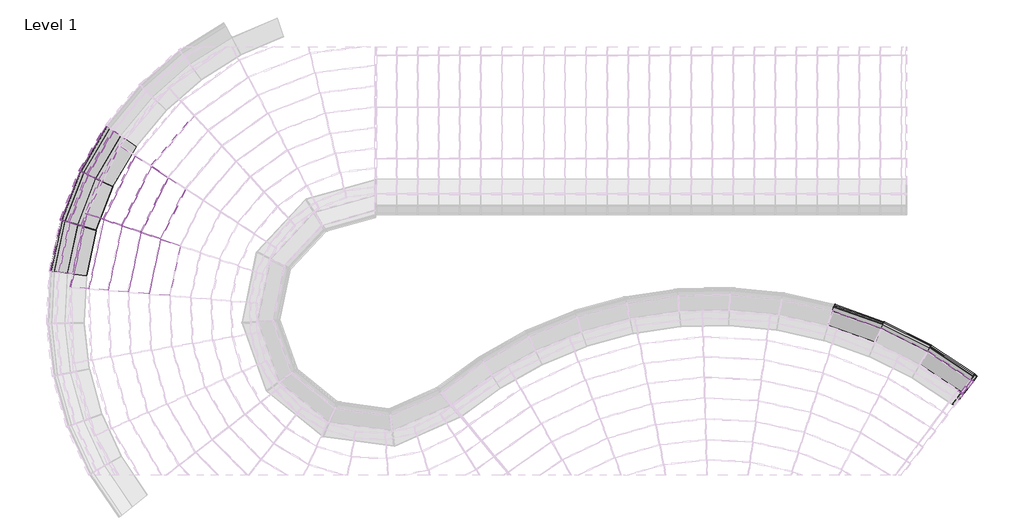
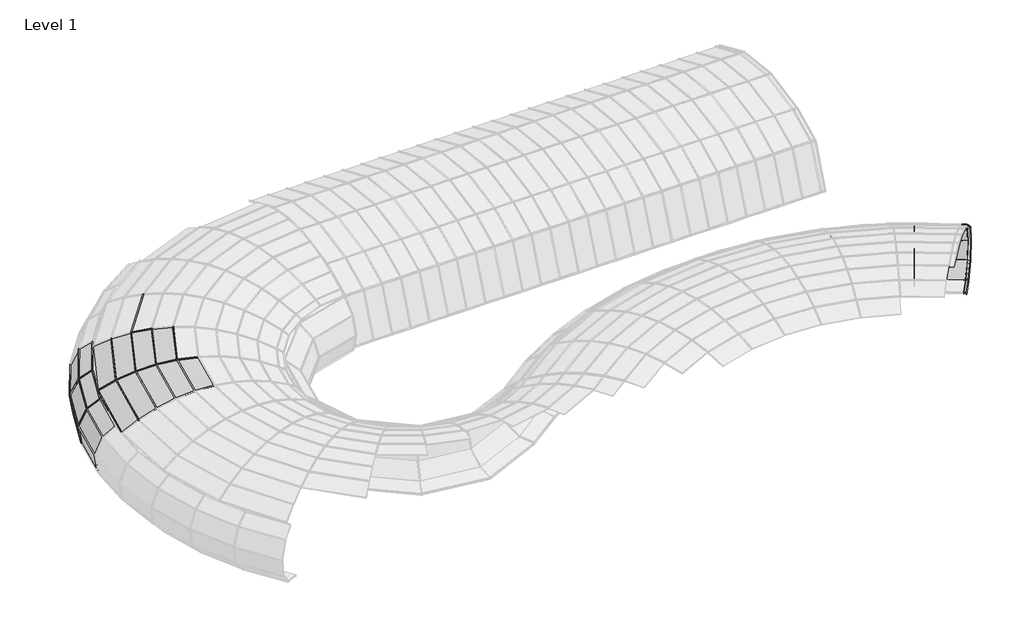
# One storey, part 13 of 23: 67 members, 33 plates.
"""IFC4 building model written with IfcOpenShell, lengths in millimetres."""

from ifc_helpers import new_model, si_unit, origin, place, context, project, spatial, transform, mapped, element, save
from components import member_9f5a8508, member_b171f0c8, member_040a25f9, member_07455e61, member_515abc7c, member_e80ec650, member_68ba998a, member_6834bcaf, member_d79d2994, member_c7dbaffb, member_6c4aaba8, member_0ea93e7c, member_01d9c279, member_12c77cbe, member_af15374c, member_9c203333, member_86c07ba8, member_0e8a41c0, member_f532ae18, member_ff5bcfe9, member_5080b2ef, member_d6b8231b, member_8c9da58c, member_391bee44, member_01ebdf2a, member_e0eebeff, member_95f517b8, member_0cd36c09, member_e4cc2466, member_03fc4885, member_b79de73f, member_10df8ec0, member_13f17b54, system_panel_glazed_dfe8d515, system_panel_glazed_f0cf6c0b, system_panel_glazed_2b57bb89, system_panel_glazed_39caee5c, system_panel_glazed_2fe36e08, system_panel_glazed_8ac96967, system_panel_glazed_5e26bc8e, system_panel_glazed_f7be4813, system_panel_glazed_5b1ce257, system_panel_glazed_7bf4cd1b, system_panel_glazed_a2a57e74, system_panel_glazed_56180ac8, system_panel_glazed_7dd4ad5a, system_panel_glazed_3ffe7a12, system_panel_glazed_af9ea4cd

model = new_model("IFC4")

# Units and contexts
model_context = context("Model", 3, world=origin())
ifc_project = project(units=[si_unit("LENGTHUNIT", "METRE", prefix="MILLI")], contexts=[model_context])

# Site, building, storey
site = spatial("IfcSite", under=ifc_project)
building = spatial("IfcBuilding", under=site)
storey = spatial("IfcBuildingStorey", under=building, Name="Level 1", Elevation=0.0)

# Members
placement = place(None, origin())
member_shape = member_9f5a8508(model_context)
element("IfcMember", 1, ObjectType="Rectangular Mullion : 1\" Square", at=placement, inside=storey, context=model_context, shape_type="MappedRepresentation", body=[
    mapped(member_shape, transform((7104.8271697, -3677.2258429, 2085.6089632), x_axis=(0.5145511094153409, 0.6881011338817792, -0.5116189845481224), y_axis=(0.30639001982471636, 0.40973057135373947, 0.8592124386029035), z_axis=(0.8008509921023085, -0.5988636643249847, 0.0))),
])
member_2_shape = member_b171f0c8(model_context)
element("IfcMember", 2, ObjectType="Rectangular Mullion : 1\" Square", at=placement, inside=storey, context=model_context, shape_type="MappedRepresentation", body=[
    mapped(member_2_shape, transform((6165.2913851, -2271.3085025, 1116.1918244), x_axis=(0.011808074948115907, 0.023756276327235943, -0.9996480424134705), y_axis=(0.44494289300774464, 0.8951659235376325, 0.026529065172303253), z_axis=(0.8954810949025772, -0.44509954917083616, 0.0))),
])
element("IfcMember", 3, ObjectType="Rectangular Mullion : 1\" Square", at=placement, inside=storey, context=model_context, shape_type="MappedRepresentation", body=[
    mapped(member_2_shape, transform((7440.7683843, -3110.151261, 1116.1918244), x_axis=(0.014599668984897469, 0.022150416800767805, -0.9996480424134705), y_axis=(0.5501336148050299, 0.8346551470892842, 0.02652906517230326), z_axis=(0.8349490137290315, -0.5503273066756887, 0.0))),
])
element("IfcMember", 4, ObjectType="Rectangular Mullion : 1\" Square", at=placement, inside=storey, context=model_context, shape_type="MappedRepresentation", body=[
    mapped(member_2_shape, transform((4797.5682661, -1593.1992054, 1116.1918244), x_axis=(0.008842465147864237, 0.025012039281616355, -0.9996480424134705), y_axis=(0.3331950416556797, 0.9424846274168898, 0.02652906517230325), z_axis=(0.9428164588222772, -0.3333123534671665, 0.0))),
])
member_3_shape = member_040a25f9(model_context)
element("IfcMember", 5, ObjectType="Rectangular Mullion : 1\" Square", at=placement, inside=storey, context=model_context, shape_type="MappedRepresentation", body=[
    mapped(member_3_shape, transform((7501.9908279, -3155.3837101, 1116.1918244), x_axis=(0.015953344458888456, 0.021115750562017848, -0.9996497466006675), y_axis=(0.6026032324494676, 0.7976020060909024, 0.02646477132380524), z_axis=(0.7978814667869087, -0.6028143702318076, 0.0))),
])
member_4_shape = member_07455e61(model_context)
element("IfcMember", 6, ObjectType="Rectangular Mullion : 1\" Square", at=placement, inside=storey, context=model_context, shape_type="MappedRepresentation", body=[
    mapped(member_4_shape, transform((4737.0034342, -1736.2291128, 526.7119632), x_axis=(-0.17219439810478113, -0.48707379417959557, -0.8562173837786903), y_axis=(0.2853878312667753, 0.8072558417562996, -0.5166157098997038), z_axis=(0.9428164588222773, -0.33331235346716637, 0.0))),
])
element("IfcMember", 7, ObjectType="Rectangular Mullion : 1\" Square", at=placement, inside=storey, context=model_context, shape_type="MappedRepresentation", body=[
    mapped(member_4_shape, transform((6087.8415671, -2405.9457149, 526.7119632), x_axis=(-0.2299454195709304, -0.46261960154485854, -0.8562173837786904), y_axis=(0.38110197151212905, 0.7667264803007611, -0.5166157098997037), z_axis=(0.8954810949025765, -0.44509954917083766, 0.0))),
])
element("IfcMember", 8, ObjectType="Rectangular Mullion : 1\" Square", at=placement, inside=storey, context=model_context, shape_type="MappedRepresentation", body=[
    mapped(member_4_shape, transform((7347.5749593, -3234.4116279, 526.7119632), x_axis=(-0.2843077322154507, -0.43134777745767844, -0.8562173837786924), y_axis=(0.4711998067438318, 0.7148978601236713, -0.5166157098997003), z_axis=(0.834949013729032, -0.5503273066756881, 0.0))),
])
member_5_shape = member_515abc7c(model_context)
element("IfcMember", 9, ObjectType="Rectangular Mullion : 1\" Square", at=placement, inside=storey, context=model_context, shape_type="MappedRepresentation", body=[
    mapped(member_5_shape, transform((7328.9928638, -3259.1882471, 1696.6281859), x_axis=(0.3088719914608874, 0.46861633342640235, -0.827645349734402), y_axis=(0.4554758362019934, 0.6910416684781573, 0.561251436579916), z_axis=(0.8349490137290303, -0.5503273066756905, 0.0))),
])
element("IfcMember", 10, ObjectType="Rectangular Mullion : 1\" Square", at=placement, inside=storey, context=model_context, shape_type="MappedRepresentation", body=[
    mapped(member_5_shape, transform((4724.9272444, -1764.7482427, 1696.6281859), x_axis=(0.18707203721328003, 0.529157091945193, -0.8276453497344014), y_axis=(0.2758644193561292, 0.7803176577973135, 0.5612514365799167), z_axis=(0.9428164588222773, -0.33331235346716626, 0.0))),
])
element("IfcMember", 11, ObjectType="Rectangular Mullion : 1\" Square", at=placement, inside=storey, context=model_context, shape_type="MappedRepresentation", body=[
    mapped(member_5_shape, transform((6072.3986331, -2432.7914021, 1696.6281859), x_axis=(0.24981276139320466, 0.5025900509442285, -0.8276453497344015), y_axis=(0.3683845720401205, 0.7411407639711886, 0.5612514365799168), z_axis=(0.8954810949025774, -0.4450995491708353, 0.0))),
])
member_6_shape = member_e80ec650(model_context)
element("IfcMember", 12, ObjectType="Rectangular Mullion : 1\" Square", at=placement, inside=storey, context=model_context, shape_type="MappedRepresentation", body=[
    mapped(member_6_shape, transform((7389.1652625, -3303.6273676, 1696.6281859), x_axis=(0.33773694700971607, 0.4470265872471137, -0.8283121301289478), y_axis=(0.4993184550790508, 0.6608948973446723, 0.5602669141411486), z_axis=(0.797881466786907, -0.6028143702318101, 0.0))),
])
member_7_shape = member_68ba998a(model_context)
element("IfcMember", 13, ObjectType="Rectangular Mullion : 1\" Square", at=placement, inside=storey, context=model_context, shape_type="MappedRepresentation", body=[
    mapped(member_7_shape, transform((7407.9219225, -3278.9826351, 526.7119632), x_axis=(-0.31084471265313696, -0.41143218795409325, -0.8567958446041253), y_axis=(0.5164888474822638, 0.6836215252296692, -0.5156557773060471), z_axis=(0.7978814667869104, -0.6028143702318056, 0.0))),
])
member_8_shape = member_6834bcaf(model_context)
element("IfcMember", 14, ObjectType="Rectangular Mullion : 1\" Square", at=placement, inside=storey, context=model_context, shape_type="MappedRepresentation", body=[
    mapped(member_8_shape, transform((7078.7002213, -3592.9183956, 113.4427618), x_axis=(-0.4932424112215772, -0.748340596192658, -0.4435067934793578), y_axis=(0.24407389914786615, 0.3703055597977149, -0.8962710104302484), z_axis=(0.8349490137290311, -0.5503273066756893, 0.0))),
])
member_9_shape = member_d79d2994(model_context)
element("IfcMember", 15, ObjectType="Rectangular Mullion : 1\" Square", at=placement, inside=storey, context=model_context, shape_type="MappedRepresentation", body=[
    mapped(member_9_shape, transform((7136.5213134, -3635.5810601, 113.4427618), x_axis=(-0.5399407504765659, -0.7146623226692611, -0.4446591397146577), y_axis=(0.2680469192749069, 0.3547852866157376, -0.8956998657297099), z_axis=(0.7978814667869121, -0.6028143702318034, 0.0))),
])
member_10_shape = member_c7dbaffb(model_context)
element("IfcMember", 16, ObjectType="Rectangular Mullion : 1\" Square", at=placement, inside=storey, context=model_context, shape_type="MappedRepresentation", body=[
    mapped(member_10_shape, transform((7068.1127197, -3649.3300557, 2085.6089632), x_axis=(-0.46414193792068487, -0.614335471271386, 0.6380941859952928), y_axis=(0.38465234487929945, 0.5091235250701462, 0.7699583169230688), z_axis=(-0.7978814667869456, 0.6028143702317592, 0.0))),
])
member_11_shape = member_6c4aaba8(model_context)
element("IfcMember", 17, ObjectType="Rectangular Mullion : 1\" Square", at=placement, inside=storey, context=model_context, shape_type="MappedRepresentation", body=[
    mapped(member_11_shape, transform((-17803.0523861, 1396.6710383, 2378.3537392), x_axis=(0.8127024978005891, -0.3994620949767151, 0.4241988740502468), y_axis=(-0.380697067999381, 0.18712142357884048, 0.9055690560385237), z_axis=(-0.44111720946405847, -0.8974495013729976, 0.0))),
])
member_12_shape = member_0ea93e7c(model_context)
element("IfcMember", 18, ObjectType="Rectangular Mullion : 1\" Square", at=placement, inside=storey, context=model_context, shape_type="MappedRepresentation", body=[
    mapped(member_12_shape, transform((-16711.9803938, 1019.204499, 2763.3769688), x_axis=(0.8794198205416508, -0.43225520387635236, 0.19943976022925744), y_axis=(-0.17898711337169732, 0.08797631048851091, 0.9799100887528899), z_axis=(-0.4411172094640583, -0.8974495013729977, 0.0))),
])
member_13_shape = member_01d9c279(model_context)
element("IfcMember", 19, ObjectType="Rectangular Mullion : 1\" Square", at=placement, inside=storey, context=model_context, shape_type="MappedRepresentation", body=[
    mapped(member_13_shape, transform((-16141.7523354, 821.9287799, 2850.17796), x_axis=(0.8944127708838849, -0.43962458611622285, 0.08219500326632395), y_axis=(-0.07376586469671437, 0.03625763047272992, 0.9966162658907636), z_axis=(-0.4411172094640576, -0.897449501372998, 0.0))),
])
member_14_shape = member_12c77cbe(model_context)
element("IfcMember", 20, ObjectType="Rectangular Mullion : 1\" Square", at=placement, inside=storey, context=model_context, shape_type="MappedRepresentation", body=[
    mapped(member_14_shape, transform((-16417.3913243, 2935.9848812, 2605.3528615), x_axis=(0.7234762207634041, -0.6148230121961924, 0.3139662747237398), y_axis=(-0.23924475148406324, 0.20331446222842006, 0.9494341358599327), z_axis=(-0.6475678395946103, -0.7620078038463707, 0.0))),
])
element("IfcMember", 21, ObjectType="Rectangular Mullion : 1\" Square", at=placement, inside=storey, context=model_context, shape_type="MappedRepresentation", body=[
    mapped(member_14_shape, transform((-17268.3856096, 1211.6980766, 2605.3528615), x_axis=(0.8520691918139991, -0.4188117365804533, 0.31396627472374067), y_axis=(-0.28176887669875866, 0.1384959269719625, 0.9494341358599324), z_axis=(-0.4411172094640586, -0.8974495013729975, 0.0))),
])
member_15_shape = member_af15374c(model_context)
element("IfcMember", 22, ObjectType="Rectangular Mullion : 1\" Square", at=placement, inside=storey, context=model_context, shape_type="MappedRepresentation", body=[
    mapped(member_15_shape, transform((-18316.6152941, 1547.6714435, 2085.6089632), x_axis=(-0.8564765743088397, 0.18192305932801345, -0.48306508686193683), y_axis=(-0.47252316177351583, 0.10036802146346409, 0.8755844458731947), z_axis=(0.20777328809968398, 0.9781770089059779, 0.0))),
])
member_16_shape = member_9c203333(model_context)
element("IfcMember", 23, ObjectType="Rectangular Mullion : 1\" Square", at=placement, inside=storey, context=model_context, shape_type="MappedRepresentation", body=[
    mapped(member_16_shape, transform((-17536.0072528, 2316.0728219, 0.0), x_axis=(0.8949800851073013, -0.3463778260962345, -0.2811281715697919), y_axis=(-0.26217768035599, 0.10146877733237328, -0.9596702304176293), z_axis=(0.36093422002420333, 0.9325912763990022, 0.0))),
])
element("IfcMember", 24, ObjectType="Rectangular Mullion : 1\" Square", at=placement, inside=storey, context=model_context, shape_type="MappedRepresentation", body=[
    mapped(member_16_shape, transform((-18022.6145046, 1053.1513631, 0.0), x_axis=(0.9387736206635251, -0.19917590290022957, -0.28112817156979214), y_axis=(-0.2750066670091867, 0.058347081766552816, -0.9596702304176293), z_axis=(0.20754619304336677, 0.9782252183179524, 0.0))),
])
member_17_shape = member_86c07ba8(model_context)
element("IfcMember", 25, ObjectType="Rectangular Mullion : 1\" Square", at=placement, inside=storey, context=model_context, shape_type="MappedRepresentation", body=[
    mapped(member_17_shape, transform((-18052.0771876, 2593.0721676, 170.8694653), x_axis=(-0.72846879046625, 0.4263067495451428, 0.5362795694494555), y_axis=(-0.4628486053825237, 0.2708633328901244, -0.8440404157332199), z_axis=(-0.5050785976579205, -0.8630733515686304, 0.0))),
])
element("IfcMember", 26, ObjectType="Rectangular Mullion : 1\" Square", at=placement, inside=storey, context=model_context, shape_type="MappedRepresentation", body=[
    mapped(member_17_shape, transform((-18576.2627857, 1244.2806281, 170.8694653), x_axis=(-0.7871447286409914, 0.3046430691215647, 0.5362795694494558), y_axis=(-0.5001296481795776, 0.193561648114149, -0.8440404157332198), z_axis=(-0.3609342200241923, -0.9325912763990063, 0.0))),
])
member_18_shape = member_0e8a41c0(model_context)
element("IfcMember", 27, ObjectType="Rectangular Mullion : 1\" Square", at=placement, inside=storey, context=model_context, shape_type="MappedRepresentation", body=[
    mapped(member_18_shape, transform((-18413.5052303, 2767.3816198, 629.7792003), x_axis=(-0.36445706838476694, 0.21328368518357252, 0.9064662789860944), y_axis=(-0.782346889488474, 0.45783671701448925, -0.4222782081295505), z_axis=(-0.5050785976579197, -0.8630733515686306, 0.0))),
])
element("IfcMember", 28, ObjectType="Rectangular Mullion : 1\" Square", at=placement, inside=storey, context=model_context, shape_type="MappedRepresentation", body=[
    mapped(member_18_shape, transform((-18960.8683823, 1358.7033102, 629.7792003), x_axis=(-0.39381297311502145, 0.1524146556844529, 0.906466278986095), y_axis=(-0.8453625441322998, 0.32717469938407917, -0.42227820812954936), z_axis=(-0.36093422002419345, -0.932591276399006, 0.0))),
])
member_19_shape = member_f532ae18(model_context)
element("IfcMember", 29, ObjectType="Rectangular Mullion : 1\" Square", at=placement, inside=storey, context=model_context, shape_type="MappedRepresentation", body=[
    mapped(member_19_shape, transform((-18495.708055, 2807.0263835, 1232.5089476), x_axis=(0.1156176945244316, -0.06766055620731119, 0.9909866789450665), y_axis=(-0.8552941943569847, 0.5005261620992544, 0.13396044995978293), z_axis=(-0.5050785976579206, -0.8630733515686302, 0.0))),
])
element("IfcMember", 30, ObjectType="Rectangular Mullion : 1\" Square", at=placement, inside=storey, context=model_context, shape_type="MappedRepresentation", body=[
    mapped(member_19_shape, transform((-19048.3426862, 1384.7274881, 1232.5089476), x_axis=(0.12493034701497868, -0.04835091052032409, 0.9909866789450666), y_axis=(-0.9241855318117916, 0.3576810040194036, 0.13396044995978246), z_axis=(-0.3609342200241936, -0.932591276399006, 0.0))),
])
member_20_shape = member_ff5bcfe9(model_context)
element("IfcMember", 31, ObjectType="Rectangular Mullion : 1\" Square", at=placement, inside=storey, context=model_context, shape_type="MappedRepresentation", body=[
    mapped(member_20_shape, transform((-18272.8520137, 2699.5474115, 1789.6405438), x_axis=(0.5587528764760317, -0.32698740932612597, 0.7621512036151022), y_axis=(-0.6577923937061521, 0.3849462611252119, 0.6473990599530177), z_axis=(-0.5050785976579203, -0.8630733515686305, 0.0))),
])
element("IfcMember", 32, ObjectType="Rectangular Mullion : 1\" Square", at=placement, inside=storey, context=model_context, shape_type="MappedRepresentation", body=[
    mapped(member_20_shape, transform((-18811.1953965, 1314.1746174, 1789.6405438), x_axis=(0.6037587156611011, -0.23366847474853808, 0.7621512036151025), y_axis=(-0.7107755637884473, 0.2750864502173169, 0.6473990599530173), z_axis=(-0.360934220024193, -0.9325912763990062, 0.0))),
])
member_21_shape = member_5080b2ef(model_context)
element("IfcMember", 33, ObjectType="Rectangular Mullion : 1\" Square", at=placement, inside=storey, context=model_context, shape_type="MappedRepresentation", body=[
    mapped(member_21_shape, transform((-17913.5543169, 2526.2653821, 2085.6089632), x_axis=(0.6923325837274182, -0.4051595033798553, 0.5970941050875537), y_axis=(-0.5153360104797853, 0.3015794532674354, 0.802171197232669), z_axis=(-0.5050785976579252, -0.8630733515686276, 0.0))),
])
element("IfcMember", 34, ObjectType="Rectangular Mullion : 1\" Square", at=placement, inside=storey, context=model_context, shape_type="MappedRepresentation", body=[
    mapped(member_21_shape, transform((-18428.85676, 1200.4263707, 2085.6089632), x_axis=(0.7480978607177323, -0.2895310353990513, 0.5970941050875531), y_axis=(-0.556844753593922, 0.21551169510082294, 0.8021711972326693), z_axis=(-0.36093422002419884, -0.932591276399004, 0.0))),
])
member_22_shape = member_d6b8231b(model_context)
element("IfcMember", 35, ObjectType="Rectangular Mullion : 1\" Square", at=placement, inside=storey, context=model_context, shape_type="MappedRepresentation", body=[
    mapped(member_22_shape, transform((-18019.9786679, 1065.5748234, 0.0), x_axis=(-0.2851545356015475, -0.9584815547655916, 0.0), y_axis=(-0.2686601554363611, 0.0799281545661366, -0.9599131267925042), z_axis=(0.9200590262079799, -0.2737235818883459, -0.2802976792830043))),
])
element("IfcMember", 36, ObjectType="Rectangular Mullion : 1\" Square", at=placement, inside=storey, context=model_context, shape_type="MappedRepresentation", body=[
    mapped(member_22_shape, transform((-17531.4233882, 2327.9167311, 0.0), x_axis=(-0.4343992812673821, -0.9007204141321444, 0.0), y_axis=(-0.25246984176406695, 0.12176111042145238, -0.9599131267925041), z_axis=(0.864613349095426, -0.4169855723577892, -0.2802976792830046))),
])
member_23_shape = member_8c9da58c(model_context)
element("IfcMember", 37, ObjectType="Rectangular Mullion : 1\" Square", at=placement, inside=storey, context=model_context, shape_type="MappedRepresentation", body=[
    mapped(member_23_shape, transform((-18058.4916858, 2582.1111361, 170.8694653), x_axis=(-0.43439928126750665, -0.9007204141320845, 0.0), y_axis=(-0.6780665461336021, 0.3270178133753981, -0.6582439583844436), z_axis=(0.5928937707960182, -0.2859407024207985, -0.7528046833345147))),
])
element("IfcMember", 38, ObjectType="Rectangular Mullion : 1\" Square", at=placement, inside=storey, context=model_context, shape_type="MappedRepresentation", body=[
    mapped(member_23_shape, transform((-18419.9197285, 2756.4205883, 629.7792003), x_axis=(-0.4343992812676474, -0.9007204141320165, 0.0), y_axis=(-0.890569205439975, 0.4295035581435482, -0.14971033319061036), z_axis=(0.1348471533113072, -0.06503406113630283, -0.9887299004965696))),
])
element("IfcMember", 39, ObjectType="Rectangular Mullion : 1\" Square", at=placement, inside=storey, context=model_context, shape_type="MappedRepresentation", body=[
    mapped(member_23_shape, transform((-18580.8466503, 1232.4367189, 170.8694653), x_axis=(-0.2851545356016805, -0.958481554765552, 0.0), y_axis=(-0.7215494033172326, 0.21466566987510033, -0.6582439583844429), z_axis=(0.6309146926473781, -0.18770125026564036, -0.7528046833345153))),
])
element("IfcMember", 40, ObjectType="Rectangular Mullion : 1\" Square", at=placement, inside=storey, context=model_context, shape_type="MappedRepresentation", body=[
    mapped(member_23_shape, transform((-18965.4522469, 1346.859401, 629.7792003), x_axis=(-0.28515453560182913, -0.9584815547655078, 0.0), y_axis=(-0.9476793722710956, 0.28194081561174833, -0.14971033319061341), z_axis=(0.14349459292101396, -0.042690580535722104, -0.9887299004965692))),
])
member_24_shape = member_391bee44(model_context)
element("IfcMember", 41, ObjectType="Rectangular Mullion : 1\" Square", at=placement, inside=storey, context=model_context, shape_type="MappedRepresentation", body=[
    mapped(member_24_shape, transform((-18502.1225531, 2796.0653519, 1232.5089476), x_axis=(-0.43439928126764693, -0.9007204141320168, 0.0), y_axis=(-0.8231952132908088, 0.39701044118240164, 0.40587233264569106), z_axis=(-0.3655774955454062, 0.1763106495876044, -0.9139297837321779))),
])
element("IfcMember", 42, ObjectType="Rectangular Mullion : 1\" Square", at=placement, inside=storey, context=model_context, shape_type="MappedRepresentation", body=[
    mapped(member_24_shape, transform((-19052.9265508, 1372.8835789, 1232.5089476), x_axis=(-0.2851545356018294, -0.9584815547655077, 0.0), y_axis=(-0.875984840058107, 0.26061122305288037, 0.40587233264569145), z_axis=(-0.38902114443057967, 0.11573633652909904, -0.9139297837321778))),
])
member_25_shape = member_01ebdf2a(model_context)
element("IfcMember", 43, ObjectType="Rectangular Mullion : 1\" Square", at=placement, inside=storey, context=model_context, shape_type="MappedRepresentation", body=[
    mapped(member_25_shape, transform((-18279.2665119, 2688.5863799, 1789.6405438), x_axis=(-0.43439928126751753, -0.9007204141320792, 0.0), y_axis=(-0.5367032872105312, 0.2588411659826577, 0.8030883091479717), z_axis=(-0.7233580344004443, 0.3488609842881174, -0.5958600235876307))),
])
element("IfcMember", 44, ObjectType="Rectangular Mullion : 1\" Square", at=placement, inside=storey, context=model_context, shape_type="MappedRepresentation", body=[
    mapped(member_25_shape, transform((-18815.7792611, 1302.3307082, 1789.6405438), x_axis=(-0.28515453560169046, -0.9584815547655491, 0.0), y_axis=(-0.5711208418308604, 0.16991218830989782, 0.8030883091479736), z_axis=(-0.7697453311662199, 0.22900427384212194, -0.5958600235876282))),
])
member_26_shape = member_e0eebeff(model_context)
element("IfcMember", 45, ObjectType="Rectangular Mullion : 1\" Square", at=placement, inside=storey, context=model_context, shape_type="MappedRepresentation", body=[
    mapped(member_26_shape, transform((7000.0174565, -3856.875692, 2208.6526723), x_axis=(0.797083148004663, -0.6038580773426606, 0.0037252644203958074), y_axis=(0.30639001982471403, 0.40973057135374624, 0.8592124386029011), z_axis=(-0.5203687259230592, -0.6837223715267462, 0.5116054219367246))),
])
member_27_shape = member_95f517b8(model_context)
element("IfcMember", 46, ObjectType="Rectangular Mullion : 1\" Square", at=placement, inside=storey, context=model_context, shape_type="MappedRepresentation", body=[
    mapped(member_27_shape, transform((7125.1687849, -3692.43698, 2085.6089632), x_axis=(0.7966162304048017, -0.6044828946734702, 0.0017353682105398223), y_axis=(0.38465234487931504, 0.5091235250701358, 0.7699583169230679), z_axis=(-0.4663101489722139, -0.6126937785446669, 0.6380918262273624))),
])
member_28_shape = member_0cd36c09(model_context)
element("IfcMember", 47, ObjectType="Rectangular Mullion : 1\" Square", at=placement, inside=storey, context=model_context, shape_type="MappedRepresentation", body=[
    mapped(member_28_shape, transform((-16425.6154359, 2926.3073821, 2605.3528615), x_axis=(-0.5485388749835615, -0.83612505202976, 0.0), y_axis=(-0.21674526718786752, 0.14219548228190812, 0.965816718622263), z_axis=(-0.8075435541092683, 0.5297880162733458, -0.25922589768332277))),
])
element("IfcMember", 48, ObjectType="Rectangular Mullion : 1\" Square", at=placement, inside=storey, context=model_context, shape_type="MappedRepresentation", body=[
    mapped(member_28_shape, transform((-17808.6545746, 1385.2734297, 2378.3537392), x_axis=(-0.32694640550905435, -0.9450428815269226, 0.0), y_axis=(-0.35190929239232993, 0.12174630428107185, 0.928082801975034), z_axis=(-0.8770780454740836, 0.3034333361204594, -0.37237388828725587))),
])
element("IfcMember", 49, ObjectType="Rectangular Mullion : 1\" Square", at=placement, inside=storey, context=model_context, shape_type="MappedRepresentation", body=[
    mapped(member_28_shape, transform((-17273.9877981, 1200.300468, 2605.3528615), x_axis=(-0.32694640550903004, -0.9450428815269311, 0.0), y_axis=(-0.2449795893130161, 0.0847529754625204, 0.9658167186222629), z_axis=(-0.9127382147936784, 0.3157703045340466, -0.259225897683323))),
])
element("IfcMember", 50, ObjectType="Rectangular Mullion : 1\" Square", at=placement, inside=storey, context=model_context, shape_type="MappedRepresentation", body=[
    mapped(member_28_shape, transform((-16717.5825824, 1007.8068903, 2763.3769688), x_axis=(-0.32694640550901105, -0.9450428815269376, 0.0), y_axis=(-0.1345647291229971, 0.0465539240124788, 0.9898106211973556), z_axis=(-0.9354134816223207, 0.3236150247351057, -0.14239007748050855))),
])
element("IfcMember", 51, ObjectType="Rectangular Mullion : 1\" Square", at=placement, inside=storey, context=model_context, shape_type="MappedRepresentation", body=[
    mapped(member_28_shape, transform((-16147.354524, 810.5311712, 2850.17796), x_axis=(-0.3269464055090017, -0.9450428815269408, 0.0), y_axis=(-0.022235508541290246, 0.007692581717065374, 0.9997231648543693), z_axis=(-0.9447812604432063, 0.32685589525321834, -0.023528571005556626))),
])
member_29_shape = member_e4cc2466(model_context)
element("IfcMember", 52, ObjectType="Rectangular Mullion : 1\" Square", at=placement, inside=storey, context=model_context, shape_type="MappedRepresentation", body=[
    mapped(member_29_shape, transform((-18313.9765733, 1560.0942916, 2085.6089632), x_axis=(-0.3269464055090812, -0.9450428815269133, 0.0), y_axis=(-0.45383262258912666, 0.15700763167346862, 0.8771456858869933), z_axis=(-0.8289402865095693, 0.2867796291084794, -0.4802243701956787))),
])
element("IfcMember", 53, ObjectType="Rectangular Mullion : 1\" Square", at=placement, inside=storey, context=model_context, shape_type="MappedRepresentation", body=[
    mapped(member_23_shape, transform((4736.9010134, -1768.9813096, 1696.6281859), x_axis=(0.9208466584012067, -0.3899249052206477, 0.0), y_axis=(0.37127065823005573, 0.8767927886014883, 0.305601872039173), z_axis=(-0.11916178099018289, -0.281412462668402, 0.9521593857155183))),
])
element("IfcMember", 54, ObjectType="Rectangular Mullion : 1\" Square", at=placement, inside=storey, context=model_context, shape_type="MappedRepresentation", body=[
    mapped(member_23_shape, transform((4809.5420351, -1597.4322723, 1116.1918244), x_axis=(0.9208466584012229, -0.3899249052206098, 0.0), y_axis=(0.3770552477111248, 0.8904536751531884, -0.2547971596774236), z_axis=(0.0993517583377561, 0.23462911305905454, 0.9669945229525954))),
])
element("IfcMember", 55, ObjectType="Rectangular Mullion : 1\" Square", at=placement, inside=storey, context=model_context, shape_type="MappedRepresentation", body=[
    mapped(member_23_shape, transform((6083.771243, -2438.4441663, 1696.6281859), x_axis=(0.8668133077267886, -0.49863282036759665, 0.0), y_axis=(0.4747779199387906, 0.825344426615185, 0.30560187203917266), z_axis=(-0.1523831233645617, -0.2648997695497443, 0.9521593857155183))),
])
element("IfcMember", 56, ObjectType="Rectangular Mullion : 1\" Square", at=placement, inside=storey, context=model_context, shape_type="MappedRepresentation", body=[
    mapped(member_23_shape, transform((6176.663995, -2276.9612668, 1116.1918244), x_axis=(0.8668133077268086, -0.4986328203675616, 0.0), y_axis=(0.48217520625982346, 0.8382037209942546, -0.25479715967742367), z_axis=(0.12705022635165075, 0.22086156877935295, 0.9669945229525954))),
])
element("IfcMember", 57, ObjectType="Rectangular Mullion : 1\" Square", at=placement, inside=storey, context=model_context, shape_type="MappedRepresentation", body=[
    mapped(member_23_shape, transform((7339.5967163, -3266.1774039, 1696.6281859), x_axis=(0.8000057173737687, -0.5999923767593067, 0.0), y_axis=(0.5712883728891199, 0.7617329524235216, 0.3056018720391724), z_axis=(-0.18335879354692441, -0.24448324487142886, 0.9521593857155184))),
])
element("IfcMember", 58, ObjectType="Rectangular Mullion : 1\" Square", at=placement, inside=storey, context=model_context, shape_type="MappedRepresentation", body=[
    mapped(member_23_shape, transform((7451.3722368, -3117.1404178, 1116.1918244), x_axis=(0.8000057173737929, -0.5999923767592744, 0.0), y_axis=(0.5801893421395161, 0.7736011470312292, -0.25479715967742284), z_axis=(0.15287635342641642, 0.20383918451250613, 0.9669945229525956))),
])
element("IfcMember", 59, ObjectType="Rectangular Mullion : 1\" Square", at=placement, inside=storey, context=model_context, shape_type="MappedRepresentation", body=[
    mapped(member_24_shape, transform((4748.9772033, -1740.4621796, 526.7119632), x_axis=(0.9208466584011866, -0.3899249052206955, 0.0), y_axis=(0.26434375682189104, 0.6242742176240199, -0.7351218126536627), z_axis=(0.28664230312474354, 0.676934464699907, 0.6779350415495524))),
])
element("IfcMember", 60, ObjectType="Rectangular Mullion : 1\" Square", at=placement, inside=storey, context=model_context, shape_type="MappedRepresentation", body=[
    mapped(member_24_shape, transform((6099.214177, -2411.5984791, 526.7119632), x_axis=(0.8668133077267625, -0.498632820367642, 0.0), y_axis=(0.3380406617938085, 0.5876431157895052, -0.7351218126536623), z_axis=(0.36655586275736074, 0.6372133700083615, 0.6779350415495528))),
])
element("IfcMember", 61, ObjectType="Rectangular Mullion : 1\" Square", at=placement, inside=storey, context=model_context, shape_type="MappedRepresentation", body=[
    mapped(member_24_shape, transform((7358.1788118, -3241.4007847, 526.7119632), x_axis=(0.8000057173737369, -0.599992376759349, 0.0), y_axis=(0.4067558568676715, 0.5423519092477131, -0.7351218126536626), z_axis=(0.44106748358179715, 0.5881016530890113, 0.6779350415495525))),
])
element("IfcMember", 62, ObjectType="Rectangular Mullion : 1\" Square", at=placement, inside=storey, context=model_context, shape_type="MappedRepresentation", body=[
    mapped(member_25_shape, transform((7089.3040738, -3599.9075524, 113.4427618), x_axis=(0.800005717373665, -0.599992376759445, 0.0), y_axis=(0.13703181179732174, 0.18271270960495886, -0.9735698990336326), z_axis=(0.5841345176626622, 0.7788614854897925, 0.22838925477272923))),
])
element("IfcMember", 63, ObjectType="Rectangular Mullion : 1\" Square", at=placement, inside=storey, context=model_context, shape_type="MappedRepresentation", body=[
    mapped(member_22_shape, transform((7057.9796251, -3641.6743132, 2085.6089632), x_axis=(0.80000571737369, -0.5999923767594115, 0.0), y_axis=(0.3828502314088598, 0.5104771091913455, 0.7699602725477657), z_axis=(-0.4619702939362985, -0.6159726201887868, 0.6380918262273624))),
])
member_30_shape = member_03fc4885(model_context)
element("IfcMember", 64, ObjectType="Rectangular Mullion : 1\" Square", at=placement, inside=storey, context=model_context, shape_type="MappedRepresentation", body=[
    mapped(member_30_shape, transform((7409.4314517, -3318.9388526, 1696.6281859), x_axis=(0.797682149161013, -0.6030772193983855, 0.0010277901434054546), y_axis=(0.5739756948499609, 0.7597107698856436, 0.30560014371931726), z_axis=(-0.1850813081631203, -0.24318185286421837, 0.9521593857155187))),
])
member_31_shape = member_b79de73f(model_context)
element("IfcMember", 65, ObjectType="Rectangular Mullion : 1\" Square", at=placement, inside=storey, context=model_context, shape_type="MappedRepresentation", body=[
    mapped(member_31_shape, transform((7522.2570172, -3170.6951951, 1116.1918244), x_axis=(0.7977429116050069, -0.6029970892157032, -0.0008702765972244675), y_axis=(0.5829184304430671, 0.7715473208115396, -0.2547956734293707), z_axis=(0.1543125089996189, 0.2027541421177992, 0.9669945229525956))),
])
member_32_shape = member_10df8ec0(model_context)
element("IfcMember", 66, ObjectType="Rectangular Mullion : 1\" Square", at=placement, inside=storey, context=model_context, shape_type="MappedRepresentation", body=[
    mapped(member_32_shape, transform((7428.1881117, -3294.2941201, 526.7119632), x_axis=(0.7967281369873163, -0.6043353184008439, -0.001760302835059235), y_axis=(0.40867036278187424, 0.5409136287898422, -0.7351197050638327), z_axis=(0.44521097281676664, 0.5849711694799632, 0.677935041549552))),
])
member_33_shape = member_13f17b54(model_context)
element("IfcMember", 67, ObjectType="Rectangular Mullion : 1\" Square", at=placement, inside=storey, context=model_context, shape_type="MappedRepresentation", body=[
    mapped(member_33_shape, transform((7156.7875027, -3650.8925451, 113.4427618), x_axis=(0.7958585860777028, -0.6054820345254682, -0.0007853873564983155), y_axis=(0.1376771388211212, 0.18222863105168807, -0.9735695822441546), z_axis=(0.5896220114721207, 0.7747155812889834, 0.22838925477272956))),
])

# Plates
system_panel_glazed_shape = system_panel_glazed_dfe8d515(model_context)
element("IfcPlate", 68, ObjectType="System Panel : Glazed", at=placement, inside=storey, context=model_context, shape_type="MappedRepresentation", body=[
    mapped(system_panel_glazed_shape, transform((-17210.6278394, 2924.350068, 7.1406556), x_axis=(-0.5050785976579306, -0.8630733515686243, 0.0), y_axis=(0.24263423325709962, -0.14199182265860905, 0.9596702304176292), z_axis=(-0.8282658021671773, 0.4847088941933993, 0.28112817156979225))),
])
element("IfcPlate", 69, ObjectType="System Panel : Glazed", at=placement, inside=storey, context=model_context, shape_type="MappedRepresentation", body=[
    mapped(system_panel_glazed_shape, transform((-17798.4335222, 1705.543774, 7.1406556), x_axis=(-0.3609342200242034, -0.9325912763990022, 0.0), y_axis=(0.2621776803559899, -0.10146877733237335, 0.9596702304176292), z_axis=(-0.8949800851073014, 0.3463778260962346, 0.2811281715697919))),
])
element("IfcPlate", 70, ObjectType="System Panel : Glazed", at=placement, inside=storey, context=model_context, shape_type="MappedRepresentation", body=[
    mapped(system_panel_glazed_shape, transform((-18184.2892631, 408.5782193, 7.1406556), x_axis=(-0.2075461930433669, -0.9782252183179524, 0.0), y_axis=(0.2750066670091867, -0.058347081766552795, 0.9596702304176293), z_axis=(-0.9387736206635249, 0.19917590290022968, 0.28112817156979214))),
])
system_panel_glazed_2_shape = system_panel_glazed_f0cf6c0b(model_context)
element("IfcPlate", 71, ObjectType="System Panel : Glazed", at=placement, inside=storey, context=model_context, shape_type="MappedRepresentation", body=[
    mapped(system_panel_glazed_2_shape, transform((-17700.2110379, 3210.8587348, 180.4433737), x_axis=(-0.5050785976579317, -0.8630733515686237, 0.0), y_axis=(0.6506287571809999, -0.38075403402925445, 0.6570453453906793), z_axis=(-0.5670783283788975, 0.33185954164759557, 0.7538510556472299))),
])
element("IfcPlate", 72, ObjectType="System Panel : Glazed", at=placement, inside=storey, context=model_context, shape_type="MappedRepresentation", body=[
    mapped(system_panel_glazed_2_shape, transform((-18327.4511535, 1910.2857344, 180.4433737), x_axis=(-0.3609342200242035, -0.9325912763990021, 0.0), y_axis=(0.7030349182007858, -0.2720906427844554, 0.6570453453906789), z_axis=(-0.6127547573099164, 0.23715014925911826, 0.7538510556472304))),
])
element("IfcPlate", 73, ObjectType="System Panel : Glazed", at=placement, inside=storey, context=model_context, shape_type="MappedRepresentation", body=[
    mapped(system_panel_glazed_2_shape, transform((-18739.1930038, 526.3099612, 180.4433737), x_axis=(-0.20754619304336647, -0.9782252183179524, 0.0), y_axis=(0.7374361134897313, -0.15645891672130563, 0.6570453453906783), z_axis=(-0.6427383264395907, 0.13636726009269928, 0.7538510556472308))),
])
system_panel_glazed_3_shape = system_panel_glazed_2b57bb89(model_context)
element("IfcPlate", 74, ObjectType="System Panel : Glazed", at=placement, inside=storey, context=model_context, shape_type="MappedRepresentation", body=[
    mapped(system_panel_glazed_3_shape, transform((-18039.8560961, 3409.6221995, 642.3369711), x_axis=(-0.5050785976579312, -0.8630733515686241, 0.0), y_axis=(0.8534076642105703, -0.4994221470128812, 0.14924100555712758), z_axis=(-0.1288059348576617, 0.0753784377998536, 0.9888008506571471))),
])
element("IfcPlate", 75, ObjectType="System Panel : Glazed", at=placement, inside=storey, context=model_context, shape_type="MappedRepresentation", body=[
    mapped(system_panel_glazed_3_shape, transform((-18694.4535846, 2052.3240952, 642.3369711), x_axis=(-0.36093422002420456, -0.9325912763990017, 0.0), y_axis=(0.922147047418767, -0.35689206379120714, 0.14924100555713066), z_axis=(-0.13918085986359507, 0.053866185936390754, 0.9888008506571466))),
])
element("IfcPlate", 76, ObjectType="System Panel : Glazed", at=placement, inside=storey, context=model_context, shape_type="MappedRepresentation", body=[
    mapped(system_panel_glazed_3_shape, transform((-19124.1537497, 607.9855669, 642.3369711), x_axis=(-0.20754619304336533, -0.9782252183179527, 0.0), y_axis=(0.9672699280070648, -0.205221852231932, 0.1492410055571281), z_axis=(-0.1459913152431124, 0.030974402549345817, 0.988800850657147))),
])
system_panel_glazed_4_shape = system_panel_glazed_39caee5c(model_context)
element("IfcPlate", 77, ObjectType="System Panel : Glazed", at=placement, inside=storey, context=model_context, shape_type="MappedRepresentation", body=[
    mapped(system_panel_glazed_4_shape, transform((-18112.2978693, 3452.0158028, 1244.1219817), x_axis=(-0.5050785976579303, -0.8630733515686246, 0.0), y_axis=(0.7892047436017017, -0.46184999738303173, -0.40478445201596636), z_axis=(0.3493586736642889, -0.20444796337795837, 0.9144121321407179))),
])
element("IfcPlate", 78, ObjectType="System Panel : Glazed", at=placement, inside=storey, context=model_context, shape_type="MappedRepresentation", body=[
    mapped(system_panel_glazed_4_shape, transform((-18772.7303217, 2082.6189883, 1244.1219817), x_axis=(-0.36093422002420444, -0.9325912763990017, 0.0), y_axis=(0.8527727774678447, -0.33004262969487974, -0.4047844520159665), z_axis=(0.37749844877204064, -0.14610056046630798, 0.9144121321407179))),
])
element("IfcPlate", 79, ObjectType="System Panel : Glazed", at=placement, inside=storey, context=model_context, shape_type="MappedRepresentation", body=[
    mapped(system_panel_glazed_4_shape, transform((-19206.2607564, 625.4058873, 1244.1219817), x_axis=(-0.20754619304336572, -0.9782252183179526, 0.0), y_axis=(0.8945010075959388, -0.18978275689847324, -0.40478445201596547), z_axis=(0.3959703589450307, -0.08401147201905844, 0.9144121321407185))),
])
system_panel_glazed_5_shape = system_panel_glazed_2fe36e08(model_context)
element("IfcPlate", 80, ObjectType="System Panel : Glazed", at=placement, inside=storey, context=model_context, shape_type="MappedRepresentation", body=[
    mapped(system_panel_glazed_5_shape, transform((-17895.0853934, 3324.9010303, 1797.2236389), x_axis=(-0.5050785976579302, -0.8630733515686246, 0.0), y_axis=(0.5153360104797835, -0.30157945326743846, -0.802171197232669), z_axis=(0.6923325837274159, -0.40515950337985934, 0.5970941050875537))),
])
element("IfcPlate", 81, ObjectType="System Panel : Glazed", at=placement, inside=storey, context=model_context, shape_type="MappedRepresentation", body=[
    mapped(system_panel_glazed_5_shape, transform((-18538.0220437, 1991.7814999, 1797.2236389), x_axis=(-0.36093422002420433, -0.9325912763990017, 0.0), y_axis=(0.5568447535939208, -0.21551169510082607, -0.8021711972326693), z_axis=(0.7480978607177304, -0.2895310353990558, 0.597094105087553))),
])
element("IfcPlate", 82, ObjectType="System Panel : Glazed", at=placement, inside=storey, context=model_context, shape_type="MappedRepresentation", body=[
    mapped(system_panel_glazed_5_shape, transform((-18960.0676359, 573.1720622, 1797.2236389), x_axis=(-0.20754619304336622, -0.9782252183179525, 0.0), y_axis=(0.5840925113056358, -0.12392460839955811, -0.802171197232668), z_axis=(0.7847040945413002, -0.16648757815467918, 0.5970941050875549))),
])
system_panel_glazed_6_shape = system_panel_glazed_8ac96967(model_context)
element("IfcPlate", 83, ObjectType="System Panel : Glazed", at=placement, inside=storey, context=model_context, shape_type="MappedRepresentation", body=[
    mapped(system_panel_glazed_6_shape, transform((-17809.9010003, 2535.2150021, 2097.8788164), x_axis=(-0.441117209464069, -0.8974495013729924, 0.0), y_axis=(0.43352652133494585, -0.21308832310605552, -0.8755844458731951), z_axis=(0.7857928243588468, -0.38623536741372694, 0.4830650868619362))),
])
element("IfcPlate", 84, ObjectType="System Panel : Glazed", at=placement, inside=storey, context=model_context, shape_type="MappedRepresentation", body=[
    mapped(system_panel_glazed_6_shape, transform((-18520.2486821, 481.945693, 2097.8788164), x_axis=(-0.20777328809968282, -0.9781770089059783, 0.0), y_axis=(0.4725231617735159, -0.10036802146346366, -0.8755844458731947), z_axis=(0.85647657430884, -0.18192305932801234, 0.48306508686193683))),
])
system_panel_glazed_7_shape = system_panel_glazed_5e26bc8e(model_context)
element("IfcPlate", 85, ObjectType="System Panel : Glazed", at=placement, inside=storey, context=model_context, shape_type="MappedRepresentation", body=[
    mapped(system_panel_glazed_7_shape, transform((-17343.0911654, 2305.7671597, 2383.1142391), x_axis=(-0.44111720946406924, -0.8974495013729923, 0.0), y_axis=(0.3364022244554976, -0.1653494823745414, -0.9270885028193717), z_axis=(0.8320151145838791, -0.40895469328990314, 0.37484251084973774))),
])
element("IfcPlate", 86, ObjectType="System Panel : Glazed", at=placement, inside=storey, context=model_context, shape_type="MappedRepresentation", body=[
    mapped(system_panel_glazed_7_shape, transform((-18011.4483013, 373.8720753, 2383.1142391), x_axis=(-0.20777328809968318, -0.9781770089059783, 0.0), y_axis=(0.3666623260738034, -0.07788226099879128, -0.9270885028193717), z_axis=(0.9068566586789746, -0.19262422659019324, 0.374842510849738))),
])
system_panel_glazed_8_shape = system_panel_glazed_f7be4813(model_context)
element("IfcPlate", 87, ObjectType="System Panel : Glazed", at=placement, inside=storey, context=model_context, shape_type="MappedRepresentation", body=[
    mapped(system_panel_glazed_8_shape, transform((-16838.799336, 2057.8960492, 2608.668686), x_axis=(-0.4411172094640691, -0.8974495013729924, 0.0), y_axis=(0.23431377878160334, -0.11517064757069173, -0.965314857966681), z_axis=(0.8663213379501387, -0.4258169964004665, 0.26108853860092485))),
])
element("IfcPlate", 88, ObjectType="System Panel : Glazed", at=placement, inside=storey, context=model_context, shape_type="MappedRepresentation", body=[
    mapped(system_panel_glazed_8_shape, transform((-17461.7943403, 257.1208025, 2608.668686), x_axis=(-0.2077732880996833, -0.9781770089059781, 0.0), y_axis=(0.25539080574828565, -0.054247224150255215, -0.965314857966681), z_axis=(0.9442488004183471, -0.20056664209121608, 0.26108853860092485))),
])
system_panel_glazed_9_shape = system_panel_glazed_5b1ce257(model_context)
element("IfcPlate", 89, ObjectType="System Panel : Glazed", at=placement, inside=storey, context=model_context, shape_type="MappedRepresentation", body=[
    mapped(system_panel_glazed_9_shape, transform((-16314.1800294, 1800.033513, 2765.1989775), x_axis=(-0.4411172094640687, -0.8974495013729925, 0.0), y_axis=(0.12875282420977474, -0.06328499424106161, -0.9896553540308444), z_axis=(0.8881657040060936, -0.43655400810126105, 0.14346525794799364))),
])
element("IfcPlate", 90, ObjectType="System Panel : Glazed", at=placement, inside=storey, context=model_context, shape_type="MappedRepresentation", body=[
    mapped(system_panel_glazed_9_shape, transform((-16889.9844018, 135.6634078, 2765.1989775), x_axis=(-0.20777328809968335, -0.9781770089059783, 0.0), y_axis=(0.1403344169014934, -0.029808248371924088, -0.9896553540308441), z_axis=(0.9680581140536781, -0.20562394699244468, 0.14346525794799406))),
])
system_panel_glazed_10_shape = system_panel_glazed_7bf4cd1b(model_context)
element("IfcPlate", 91, ObjectType="System Panel : Glazed", at=placement, inside=storey, context=model_context, shape_type="MappedRepresentation", body=[
    mapped(system_panel_glazed_10_shape, transform((-16304.1537919, 11.2279008, 2850.4790751), x_axis=(-0.20777328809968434, -0.9781770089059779, 0.0), y_axis=(0.023192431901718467, -0.004926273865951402, -0.9997188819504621), z_axis=(0.9779020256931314, -0.2077148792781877, 0.023709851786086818))),
])
system_panel_glazed_11_shape = system_panel_glazed_a2a57e74(model_context)
element("IfcPlate", 92, ObjectType="System Panel : Glazed", at=placement, inside=storey, context=model_context, shape_type="MappedRepresentation", body=[
    mapped(system_panel_glazed_11_shape, transform((4029.1594132, -1514.6649255, 1684.5336808), x_axis=(0.9428164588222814, -0.3333123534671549, 0.0), y_axis=(-0.31742109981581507, -0.8978660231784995, -0.3050908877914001), z_axis=(0.10169056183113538, 0.28764471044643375, -0.9523232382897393))),
])
element("IfcPlate", 93, ObjectType="System Panel : Glazed", at=placement, inside=storey, context=model_context, shape_type="MappedRepresentation", body=[
    mapped(system_panel_glazed_11_shape, transform((6713.8163077, -2849.0756464, 1684.5336808), x_axis=(0.8349490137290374, -0.5503273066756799, 0.0), y_axis=(-0.5240894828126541, -0.7951413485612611, -0.30509088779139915), z_axis=(0.16789984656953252, 0.2547353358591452, -0.9523232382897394))),
])
system_panel_glazed_12_shape = system_panel_glazed_56180ac8(model_context)
element("IfcPlate", 94, ObjectType="System Panel : Glazed", at=placement, inside=storey, context=model_context, shape_type="MappedRepresentation", body=[
    mapped(system_panel_glazed_12_shape, transform((4088.7711303, -1346.0455887, 1103.9095249), x_axis=(0.9428164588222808, -0.3333123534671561, 0.0), y_axis=(-0.32234977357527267, -0.911807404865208, 0.254357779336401), z_axis=(-0.08478059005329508, -0.23981270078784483, -0.9671101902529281))),
])
element("IfcPlate", 95, ObjectType="System Panel : Glazed", at=placement, inside=storey, context=model_context, shape_type="MappedRepresentation", body=[
    mapped(system_panel_glazed_12_shape, transform((5491.6651905, -1940.0894814, 1103.9095249), x_axis=(0.8954810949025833, -0.44509954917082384, 0.0), y_axis=(-0.430460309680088, -0.8660288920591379, 0.2543577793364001), z_axis=(-0.11321453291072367, -0.22777258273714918, -0.9671101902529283))),
])
element("IfcPlate", 96, ObjectType="System Panel : Glazed", at=placement, inside=storey, context=model_context, shape_type="MappedRepresentation", body=[
    mapped(system_panel_glazed_12_shape, transform((6812.2403695, -2699.7480147, 1103.9095249), x_axis=(0.8349490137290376, -0.5503273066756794, 0.0), y_axis=(-0.5322271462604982, -0.8074876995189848, 0.2543577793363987), z_axis=(-0.1399800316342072, -0.21237577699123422, -0.9671101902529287))),
])
system_panel_glazed_13_shape = system_panel_glazed_7dd4ad5a(model_context)
element("IfcPlate", 97, ObjectType="System Panel : Glazed", at=placement, inside=storey, context=model_context, shape_type="MappedRepresentation", body=[
    mapped(system_panel_glazed_13_shape, transform((4035.0625984, -1497.9670139, 518.0936043), x_axis=(0.9428164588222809, -0.3333123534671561, 0.0), y_axis=(-0.22618940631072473, -0.6398055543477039, 0.73449792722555), z_axis=(-0.244817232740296, -0.6924967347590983, -0.678610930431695))),
])
element("IfcPlate", 98, ObjectType="System Panel : Glazed", at=placement, inside=storey, context=model_context, shape_type="MappedRepresentation", body=[
    mapped(system_panel_glazed_13_shape, transform((6723.5629732, -2834.2881396, 518.0936043), x_axis=(0.8349490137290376, -0.5503273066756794, 0.0), y_axis=(-0.3734581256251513, -0.5666055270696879, 0.7344979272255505), z_axis=(-0.4042142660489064, -0.6132683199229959, -0.6786109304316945))),
])
system_panel_glazed_14_shape = system_panel_glazed_3ffe7a12(model_context)
element("IfcPlate", 99, ObjectType="System Panel : Glazed", at=placement, inside=storey, context=model_context, shape_type="MappedRepresentation", body=[
    mapped(system_panel_glazed_14_shape, transform((7382.4890102, -3271.4686058, 518.1021591), x_axis=(0.7978814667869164, -0.6028143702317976, 0.0), y_axis=(-0.4086703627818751, -0.5409136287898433, 0.7351197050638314), z_axis=(-0.44314072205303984, -0.586538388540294, -0.67793732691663))),
])
system_panel_glazed_15_shape = system_panel_glazed_af9ea4cd(model_context)
element("IfcPlate", 100, ObjectType="System Panel : Glazed", at=placement, inside=storey, context=model_context, shape_type="MappedRepresentation", body=[
    mapped(system_panel_glazed_15_shape, transform((7110.5258129, -3631.4374276, 110.5422011), x_axis=(0.7978814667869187, -0.6028143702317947, 0.0), y_axis=(-0.13767713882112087, -0.18222863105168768, 0.9735695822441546), z_axis=(-0.586881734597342, -0.7767931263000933, -0.22839060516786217))),
])

save(model, "model.ifc")
